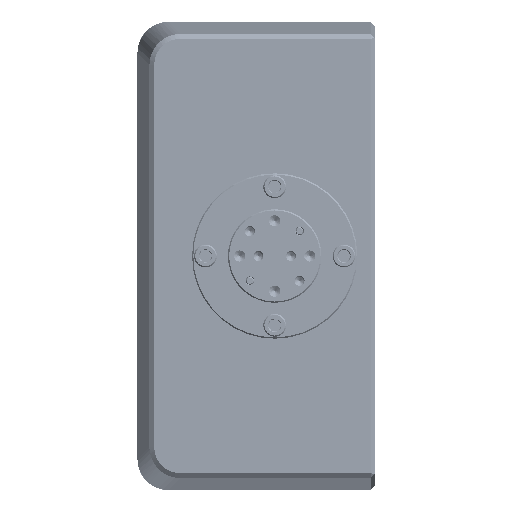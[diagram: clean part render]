
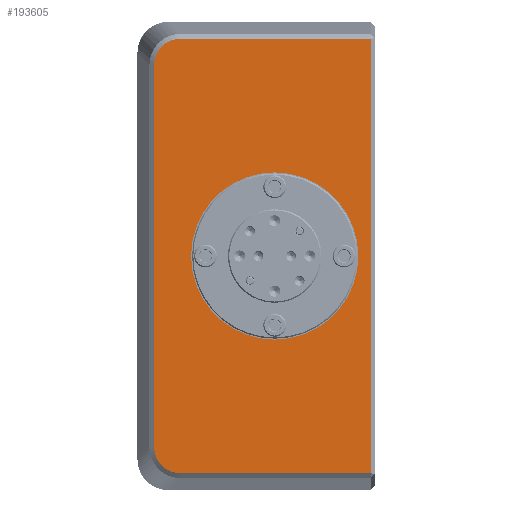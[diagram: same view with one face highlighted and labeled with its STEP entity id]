
A CAD part, left-side view. The second image highlights one B-rep face of the part: STEP entity #193605.
In plain terms, the highlighted planar face has unit normal (-1, 0, 0).
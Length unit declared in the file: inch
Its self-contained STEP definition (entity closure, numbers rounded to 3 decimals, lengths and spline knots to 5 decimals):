
#154 = ORIENTED_EDGE ( 'NONE', *, *, #128282, .T. ) ;
#287 = LINE ( 'NONE', #15617, #86218 ) ;
#1795 = VERTEX_POINT ( 'NONE', #133793 ) ;
#2301 = CARTESIAN_POINT ( 'NONE',  ( -0.753, 1.73884, 1.63662 ) ) ;
#2958 = EDGE_CURVE ( 'NONE', #171753, #1795, #287, .T. ) ;
#3673 = AXIS2_PLACEMENT_3D ( 'NONE', #174683, #176831, #158330 ) ;
#5161 = CARTESIAN_POINT ( 'NONE',  ( -0.753, 0.8, -0.67 ) ) ;
#5509 = CARTESIAN_POINT ( 'NONE',  ( -0.753, 1.76508, 1.53116 ) ) ;
#9348 = CARTESIAN_POINT ( 'NONE',  ( -0.753, 1.75964, -1.58614 ) ) ;
#9712 = DIRECTION ( 'NONE',  ( 0., 0., -1. ) ) ;
#10464 = EDGE_LOOP ( 'NONE', ( #11245, #202305 ) ) ;
#11245 = ORIENTED_EDGE ( 'NONE', *, *, #216138, .F. ) ;
#12600 = CARTESIAN_POINT ( 'NONE',  ( -0.753, 1.76508, -1.55864 ) ) ;
#15617 = CARTESIAN_POINT ( 'NONE',  ( -0.753, 0.95, 1.74008 ) ) ;
#21924 = CARTESIAN_POINT ( 'NONE',  ( -0.753, 1.76508, 1.5587 ) ) ;
#26130 = FACE_BOUND ( 'NONE', #10464, .T. ) ;
#27198 = FACE_OUTER_BOUND ( 'NONE', #71388, .T. ) ;
#33912 = DIRECTION ( 'NONE',  ( 0., 0., 1. ) ) ;
#36638 = CARTESIAN_POINT ( 'NONE',  ( -0.753, 1.76508, 0. ) ) ;
#38904 = VERTEX_POINT ( 'NONE', #5161 ) ;
#39660 = B_SPLINE_CURVE_WITH_KNOTS ( 'NONE', 3,
 ( #141547, #12600, #9348, #59613, #79234, #208228, #58525, #192886, #43198, #109824 ),
 .UNSPECIFIED., .F., .F.,
 ( 4, 2, 2, 2, 4 ),
 ( 0., 0.25, 0.5, 0.75, 1. ),
 .UNSPECIFIED. ) ;
#39844 = DIRECTION ( 'NONE',  ( 0., 0., -1. ) ) ;
#43198 = CARTESIAN_POINT ( 'NONE',  ( -0.753, 1.5837, -1.74008 ) ) ;
#43765 = AXIS2_PLACEMENT_3D ( 'NONE', #168258, #133331, #33912 ) ;
#44307 = LINE ( 'NONE', #79271, #133426 ) ;
#49116 = EDGE_CURVE ( 'NONE', #1795, #119758, #205944, .T. ) ;
#52537 = CARTESIAN_POINT ( 'NONE',  ( -0.753, 1.61114, 1.73464 ) ) ;
#54820 = VERTEX_POINT ( 'NONE', #136291 ) ;
#58525 = CARTESIAN_POINT ( 'NONE',  ( -0.753, 1.66162, -1.71384 ) ) ;
#59613 = CARTESIAN_POINT ( 'NONE',  ( -0.753, 1.73885, -1.63662 ) ) ;
#59969 = PLANE ( 'NONE',  #101872 ) ;
#63976 = DIRECTION ( 'NONE',  ( 0., -1., 0. ) ) ;
#68952 = CARTESIAN_POINT ( 'NONE',  ( -0.753, 1.66162, 1.71385 ) ) ;
#71388 = EDGE_LOOP ( 'NONE', ( #79379, #154, #152194, #213115, #79859, #183404 ) ) ;
#79234 = CARTESIAN_POINT ( 'NONE',  ( -0.753, 1.72336, -1.65985 ) ) ;
#79271 = CARTESIAN_POINT ( 'NONE',  ( -0.753, 0.95, -1.74008 ) ) ;
#79379 = ORIENTED_EDGE ( 'NONE', *, *, #159517, .T. ) ;
#79859 = ORIENTED_EDGE ( 'NONE', *, *, #49116, .T. ) ;
#80334 = VERTEX_POINT ( 'NONE', #84127 ) ;
#82246 = DIRECTION ( 'NONE',  ( 0., 1., 0. ) ) ;
#84127 = CARTESIAN_POINT ( 'NONE',  ( -0.753, 1.76508, -1.53116 ) ) ;
#85317 = CARTESIAN_POINT ( 'NONE',  ( -0.753, 1.72336, 1.65986 ) ) ;
#86218 = VECTOR ( 'NONE', #82246, 39.37008 ) ;
#92734 = CARTESIAN_POINT ( 'NONE',  ( -0.753, 0.95, 0. ) ) ;
#94143 = CARTESIAN_POINT ( 'NONE',  ( -0.753, 0.03, 0. ) ) ;
#94966 = CARTESIAN_POINT ( 'NONE',  ( -0.753, 0.03, -1.74008 ) ) ;
#96850 = EDGE_CURVE ( 'NONE', #38904, #191228, #181642, .T. ) ;
#98917 = VECTOR ( 'NONE', #177179, 39.37008 ) ;
#101177 = VECTOR ( 'NONE', #39844, 39.37008 ) ;
#101872 = AXIS2_PLACEMENT_3D ( 'NONE', #92734, #141919, #9712 ) ;
#105559 = CARTESIAN_POINT ( 'NONE',  ( -0.753, 0.8, 0.67 ) ) ;
#109824 = CARTESIAN_POINT ( 'NONE',  ( -0.753, 1.55616, -1.74008 ) ) ;
#119155 = CARTESIAN_POINT ( 'NONE',  ( -0.753, 1.68485, 1.69836 ) ) ;
#119758 = VERTEX_POINT ( 'NONE', #198449 ) ;
#128282 = EDGE_CURVE ( 'NONE', #54820, #163441, #44307, .T. ) ;
#130227 = EDGE_CURVE ( 'NONE', #163441, #171753, #173946, .T. ) ;
#133331 = DIRECTION ( 'NONE',  ( -1., 0., 0. ) ) ;
#133426 = VECTOR ( 'NONE', #63976, 39.37008 ) ;
#133793 = CARTESIAN_POINT ( 'NONE',  ( -0.753, 1.55616, 1.74008 ) ) ;
#135582 = CARTESIAN_POINT ( 'NONE',  ( -0.753, 1.75965, 1.58615 ) ) ;
#136291 = CARTESIAN_POINT ( 'NONE',  ( -0.753, 1.55616, -1.74008 ) ) ;
#136640 = CARTESIAN_POINT ( 'NONE',  ( -0.753, 1.55616, 1.74008 ) ) ;
#141547 = CARTESIAN_POINT ( 'NONE',  ( -0.753, 1.76508, -1.53116 ) ) ;
#141919 = DIRECTION ( 'NONE',  ( 1., 0., 0. ) ) ;
#152194 = ORIENTED_EDGE ( 'NONE', *, *, #130227, .T. ) ;
#155450 = CIRCLE ( 'NONE', #43765, 0.67 ) ;
#158330 = DIRECTION ( 'NONE',  ( 0., 0., 1. ) ) ;
#159517 = EDGE_CURVE ( 'NONE', #80334, #54820, #39660, .T. ) ;
#163441 = VERTEX_POINT ( 'NONE', #94966 ) ;
#168258 = CARTESIAN_POINT ( 'NONE',  ( -0.753, 0.8, 0. ) ) ;
#168363 = CARTESIAN_POINT ( 'NONE',  ( -0.753, 1.58364, 1.74008 ) ) ;
#169778 = EDGE_CURVE ( 'NONE', #119758, #80334, #204876, .T. ) ;
#171753 = VERTEX_POINT ( 'NONE', #210059 ) ;
#173946 = LINE ( 'NONE', #94143, #98917 ) ;
#174683 = CARTESIAN_POINT ( 'NONE',  ( -0.753, 0.8, 0. ) ) ;
#176831 = DIRECTION ( 'NONE',  ( -1., 0., 0. ) ) ;
#177179 = DIRECTION ( 'NONE',  ( 0., 0., 1. ) ) ;
#181642 = CIRCLE ( 'NONE', #3673, 0.67 ) ;
#183404 = ORIENTED_EDGE ( 'NONE', *, *, #169778, .T. ) ;
#191228 = VERTEX_POINT ( 'NONE', #105559 ) ;
#192886 = CARTESIAN_POINT ( 'NONE',  ( -0.753, 1.61115, -1.73465 ) ) ;
#193605 = ADVANCED_FACE ( 'NONE', ( #27198, #26130 ), #59969, .F. ) ;
#198449 = CARTESIAN_POINT ( 'NONE',  ( -0.753, 1.76508, 1.53116 ) ) ;
#202305 = ORIENTED_EDGE ( 'NONE', *, *, #96850, .F. ) ;
#204876 = LINE ( 'NONE', #36638, #101177 ) ;
#205944 = B_SPLINE_CURVE_WITH_KNOTS ( 'NONE', 3,
 ( #136640, #168363, #52537, #68952, #119155, #85317, #2301, #135582, #21924, #5509 ),
 .UNSPECIFIED., .F., .F.,
 ( 4, 2, 2, 2, 4 ),
 ( 0., 0.25, 0.5, 0.75, 1. ),
 .UNSPECIFIED. ) ;
#208228 = CARTESIAN_POINT ( 'NONE',  ( -0.753, 1.68486, -1.69836 ) ) ;
#210059 = CARTESIAN_POINT ( 'NONE',  ( -0.753, 0.03, 1.74008 ) ) ;
#213115 = ORIENTED_EDGE ( 'NONE', *, *, #2958, .T. ) ;
#216138 = EDGE_CURVE ( 'NONE', #191228, #38904, #155450, .T. ) ;
